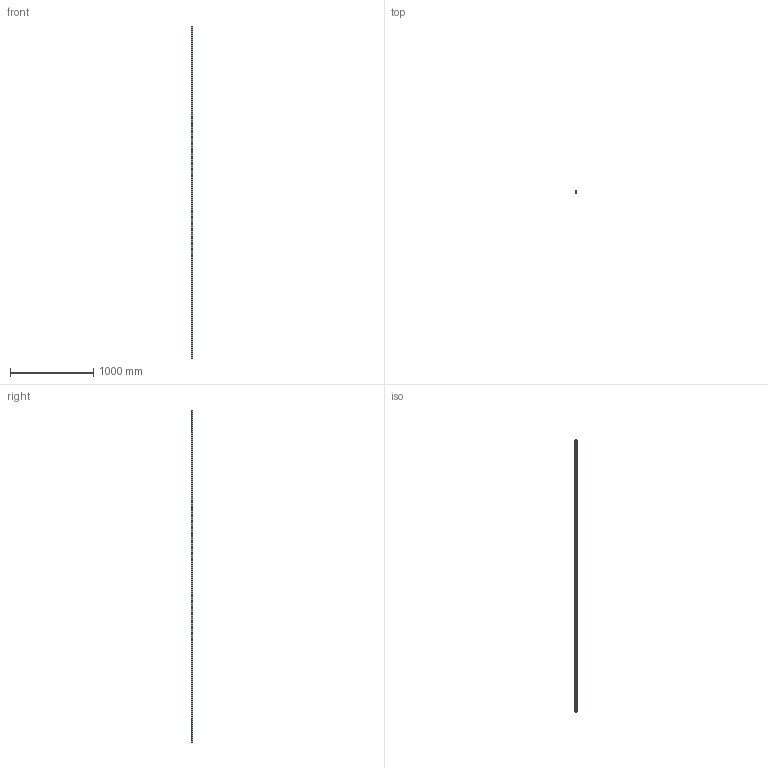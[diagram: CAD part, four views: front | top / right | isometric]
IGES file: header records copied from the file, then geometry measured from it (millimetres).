
Start section: SolidWorks IGES file using analytic representation for surfaces
Global section: file name: V:\webhosting\solidcomponents\www\company\out\15612220\A25-XXXX\A25-4000-0020-0020.igs; native system: SolidWorks 2010; preprocessor: SolidWorks 2010; author: CShared; date: 220620.100906; units: millimetre
Bounding box: 23 x 21.8 x 4000 mm (x, y, z)
Surface area: 403204.4 mm2 (no closed solid volume)
Topology: 0 solids, 0 shells, 498 faces, 10404 edges, 10404 vertices
Faces by surface type: revolution 405, bspline 93
